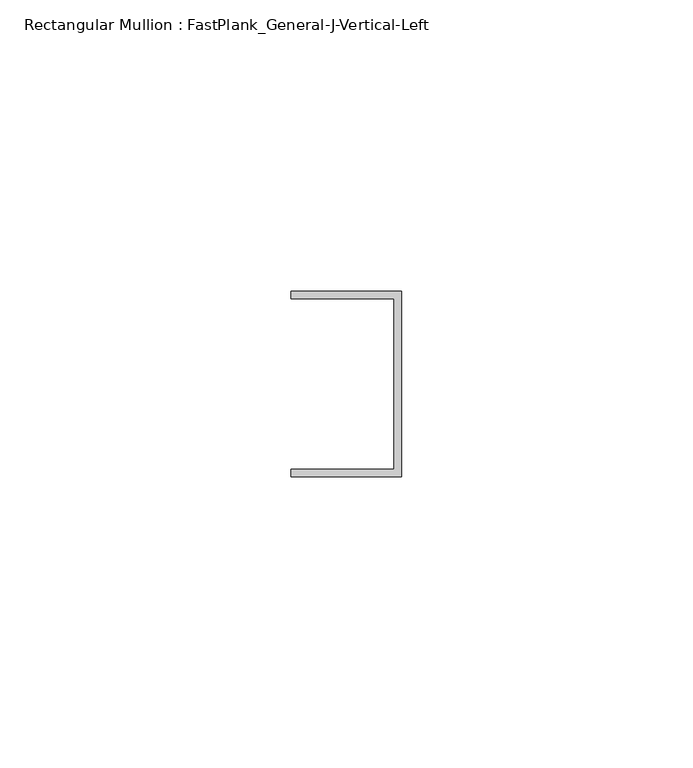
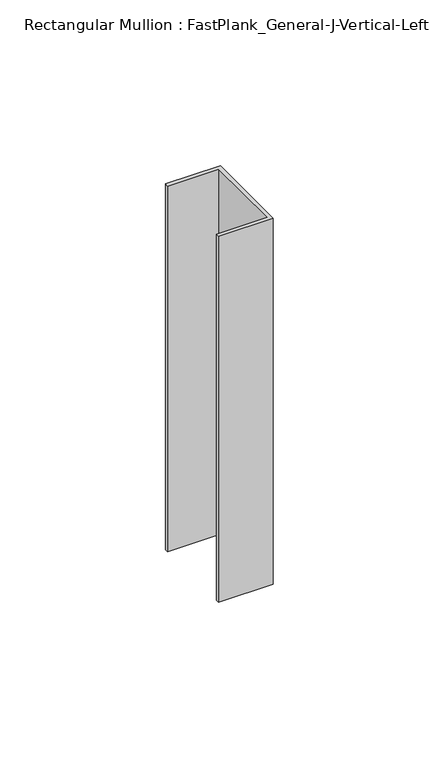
"""IFC4 building model written with IfcOpenShell, lengths in millimetres: member geometry, Rectangular Mullion : FastPlank_General-J-Vertical-Left."""

from ifc_helpers import new_model, si_unit, frame, origin, place, context, project, spatial, polyline, outline, extrude, source, transform, mapped, element, save


def rectangular_mullion_fastplank_general_j_vertical_left_d777bbc9(model_context):
    return source(origin(), model_context, "Body", "SweptSolid", [
        extrude(outline(polyline([(0.0, 10.2620691), (0.0, -21.6412691), (-19.05, -21.6412691), (-19.05, -20.3412717), (-1.3000189, -20.3412717), (-1.3000189, 8.9620717), (-19.05, 8.9620717), (-19.05, 10.2620691), (0.0, 10.2620691)])), frame((0.0, 0.0, -134.6500189), z_axis=(0.0, 0.0, 1.0), x_axis=(1.0, 0.0, 0.0)), (0.0, 0.0, 1.0), 134.6500189),
    ])


if __name__ == "__main__":
    model = new_model("IFC4")
    model_context = context("Model", 3, world=origin())
    ifc_project = project(units=[si_unit("LENGTHUNIT", "METRE", prefix="MILLI")], contexts=[model_context])
    site = spatial("IfcSite", under=ifc_project)
    building = spatial("IfcBuilding", under=site)
    placement = place(None, origin())
    rectangular_mullion_fastplank_general_j_vertical_left_shape = rectangular_mullion_fastplank_general_j_vertical_left_d777bbc9(model_context)
    element("IfcMember", 1, ObjectType="Rectangular Mullion : FastPlank_General-J-Vertical-Left", at=placement, inside=building, context=model_context, shape_type="MappedRepresentation", body=[
        mapped(rectangular_mullion_fastplank_general_j_vertical_left_shape, transform((0.0, 0.0, 0.0), x_axis=(1.0, 0.0, 0.0), y_axis=(0.0, 1.0, 0.0), z_axis=(0.0, 0.0, 1.0))),
    ])
    save(model, "model.ifc")
